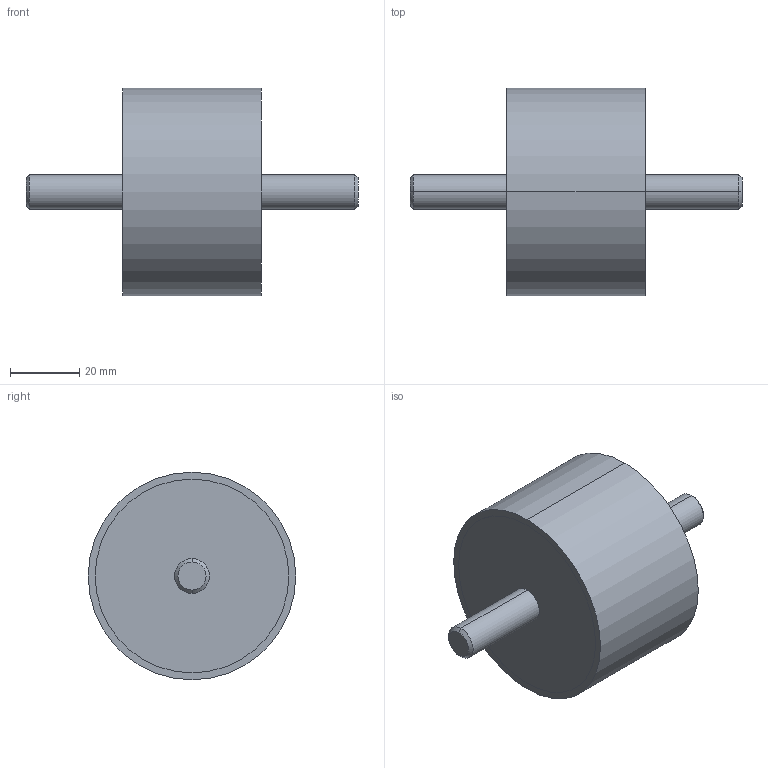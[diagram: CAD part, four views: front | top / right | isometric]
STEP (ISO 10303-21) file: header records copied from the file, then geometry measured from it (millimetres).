
FILE_DESCRIPTION (( 'STEP AP214' ), '1' );
FILE_NAME ('351-60-40-M10-SS-55.step', '2025-07-23T09:54:10', ( '' ), ( '' ), 'SwSTEP 2.0', 'SolidWorks 2022', '' );
FILE_SCHEMA (( 'AUTOMOTIVE_DESIGN' ));
Length unit declared in the file: millimetre
Products named in the file (1): 351-60-40-M10-SS-55
Bounding box: 96 x 60 x 60 mm (x, y, z)
Volume: 117421.3 mm3; surface area: 14920.8 mm2
Topology: 1 solids, 1 shells, 20 faces, 38 edges, 24 vertices
Faces by surface type: cylinder 10, plane 6, cone 4
Entity records: 636 total; most frequent: DIRECTION 104, CARTESIAN_POINT 83, ORIENTED_EDGE 76, AXIS2_PLACEMENT_3D 45, EDGE_CURVE 38, CIRCLE 24, VERTEX_POINT 24, EDGE_LOOP 24
